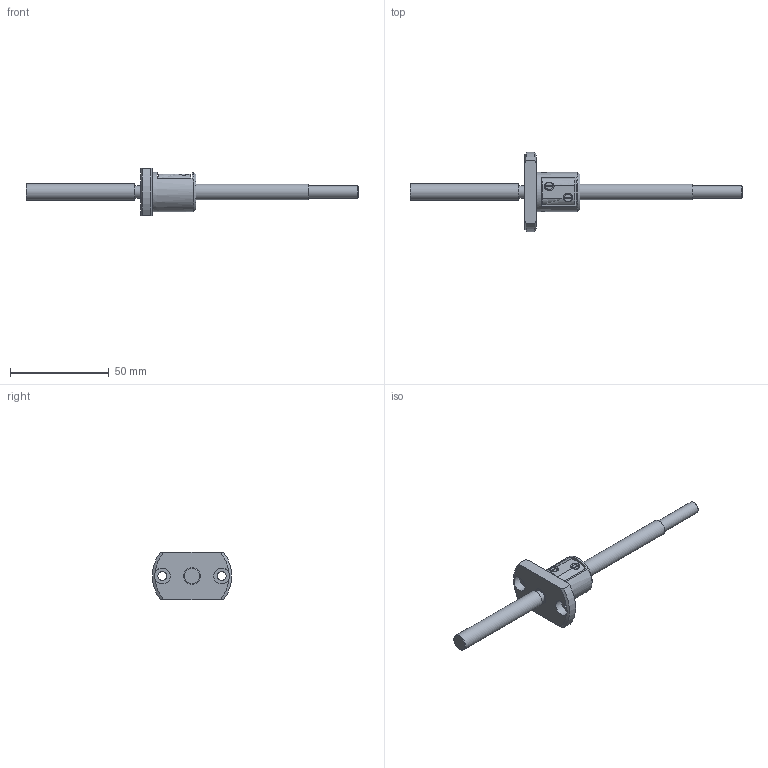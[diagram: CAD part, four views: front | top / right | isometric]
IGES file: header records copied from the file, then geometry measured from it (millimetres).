
Start section: Data from Parasolid IGES Translator 26.0.171, Copyright(c) 2006 Siemens PLM Software. All Rights Reserved.
Global section: file name: MBF0802-3.7GT+168LC3A(0).igs; native system: By Siemens PLM Incorporated; preprocessor: XPlus GENERIC/IGES 26.0.171; author: Noname; organization: Noname; date: 20240715.080320; units: millimetre
Bounding box: 168 x 40 x 24 mm (x, y, z)
Surface area: 8944.3 mm2 (no closed solid volume)
Topology: 0 solids, 0 shells, 63 faces, 324 edges, 308 vertices
Faces by surface type: extrusion 32, revolution 31
